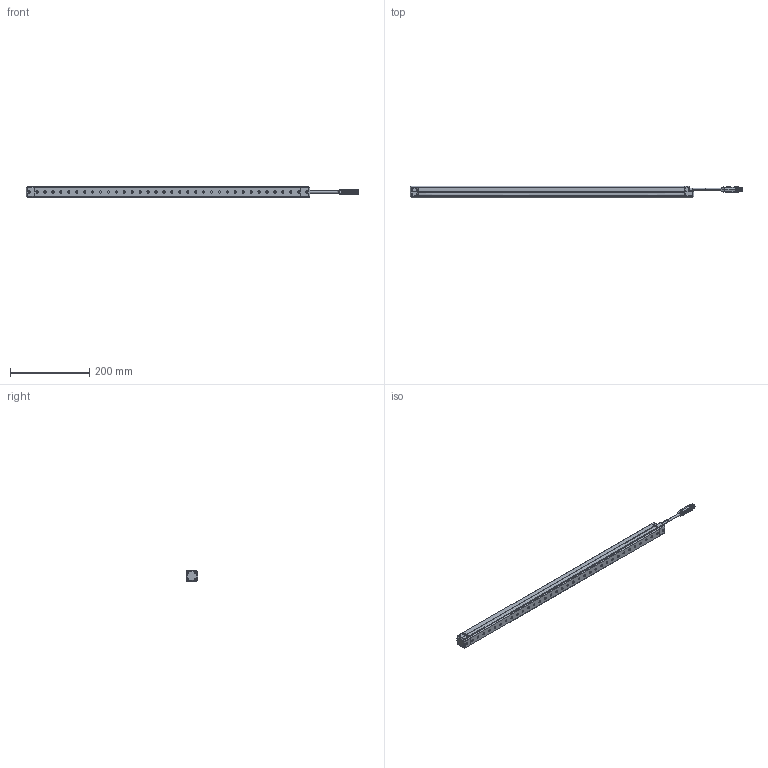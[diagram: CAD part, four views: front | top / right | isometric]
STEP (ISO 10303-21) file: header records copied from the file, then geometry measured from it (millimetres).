
FILE_DESCRIPTION((''),'2;1');
FILE_NAME('EFP-3620_ASM','2022-12-28T08:55:51',('18720616900'),(''),'CREO PARAMETRIC BY PTC INC, 2019010','CREO PARAMETRIC BY PTC INC, 2019010','');
FILE_SCHEMA(('CONFIG_CONTROL_DESIGN'));
Products named in the file (9): EFP-3-_A; EFP-3-_AF; EFP2-0; M26-14; M26-30; _0002; _0001_ASM; EFP-3620_ASM
Assembly tree (14 placements, depth 3):
  EFP-3620_ASM
    EFP-3-_A
    EFP-3-_AF
    EFP-3-_AF
    EFP2-0
    M26-14  x2
    M26-30  x6
    _0001_ASM
      _0002
Bounding box: 837.47 x 30 x 28.01 mm (x, y, z)
Volume: 519357.3 mm3; surface area: 131422.6 mm2
Topology: 13 solids, 649 shells, 3022 faces, 9727 edges, 7421 vertices
Faces by surface type: bspline 1174, plane 737, cone 450, cylinder 434, extrusion 161, torus 60, revolution 4, sphere 2
Entity records: 141198 total; most frequent: CARTESIAN_POINT 81364, ORIENTED_EDGE 11908, DIRECTION 8929, EDGE_CURVE 7911, VERTEX_POINT 6300, VECTOR 4019, LINE 3858, B_SPLINE_CURVE_WITH_KNOTS 3082
